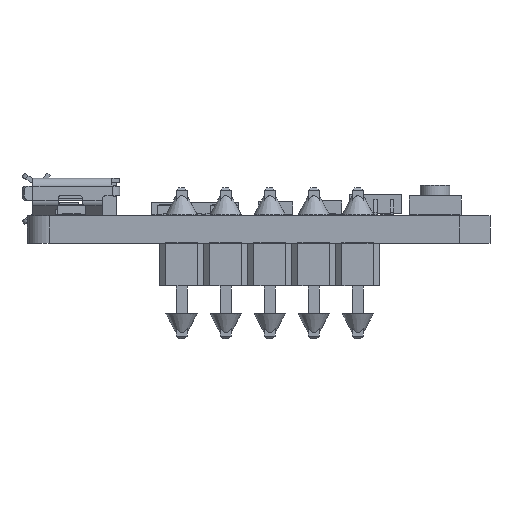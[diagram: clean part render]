
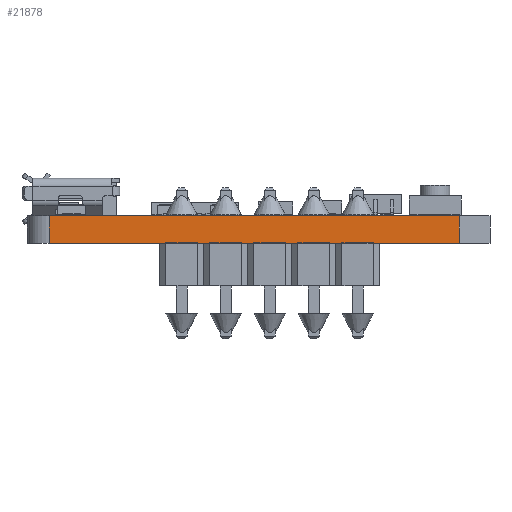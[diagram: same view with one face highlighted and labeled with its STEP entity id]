
A CAD part, left-side view. The second image highlights one B-rep face of the part: STEP entity #21878.
In plain terms, the highlighted planar face has unit normal (-1, 0, 0).
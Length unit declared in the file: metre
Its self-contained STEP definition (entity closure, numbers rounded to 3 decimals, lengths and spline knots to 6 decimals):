
#3302=ORIENTED_EDGE('',*,*,#8383,.T.);
#3303=ORIENTED_EDGE('',*,*,#8384,.T.);
#3304=ORIENTED_EDGE('',*,*,#8385,.F.);
#3305=ORIENTED_EDGE('',*,*,#8386,.F.);
#8383=EDGE_CURVE('',#11094,#11095,#13267,.T.);
#8384=EDGE_CURVE('',#11095,#11096,#13268,.T.);
#8385=EDGE_CURVE('',#11097,#11096,#13269,.T.);
#8386=EDGE_CURVE('',#11094,#11097,#13270,.T.);
#11094=VERTEX_POINT('',#34129);
#11095=VERTEX_POINT('',#34130);
#11096=VERTEX_POINT('',#34132);
#11097=VERTEX_POINT('',#34134);
#13267=LINE('',#34128,#15878);
#13268=LINE('',#34131,#15879);
#13269=LINE('',#34133,#15880);
#13270=LINE('',#34135,#15881);
#15878=VECTOR('',#28114,1.);
#15879=VECTOR('',#28115,1.);
#15880=VECTOR('',#28116,1.);
#15881=VECTOR('',#28117,1.);
#18024=EDGE_LOOP('',(#3302,#3303,#3304,#3305));
#19378=FACE_BOUND('',#18024,.T.);
#20560=PLANE('',#24828);
#21878=ADVANCED_FACE('',(#19378),#20560,.T.);
#24828=AXIS2_PLACEMENT_3D('',#34127,#28112,#28113);
#28112=DIRECTION('',(-1.,0.,0.));
#28113=DIRECTION('',(0.,1.,0.));
#28114=DIRECTION('',(0.,0.,1.));
#28115=DIRECTION('',(0.,1.,0.));
#28116=DIRECTION('',(0.,0.,1.));
#28117=DIRECTION('',(0.,1.,0.));
#34127=CARTESIAN_POINT('',(0.140881,-0.116561,0.));
#34128=CARTESIAN_POINT('',(0.140881,-0.116561,0.));
#34129=CARTESIAN_POINT('',(0.140881,-0.116561,0.));
#34130=CARTESIAN_POINT('',(0.140881,-0.116561,0.0016));
#34131=CARTESIAN_POINT('',(0.140881,-0.116561,0.0016));
#34132=CARTESIAN_POINT('',(0.140881,-0.092939,0.0016));
#34133=CARTESIAN_POINT('',(0.140881,-0.092939,0.));
#34134=CARTESIAN_POINT('',(0.140881,-0.092939,0.));
#34135=CARTESIAN_POINT('',(0.140881,-0.116561,0.));
